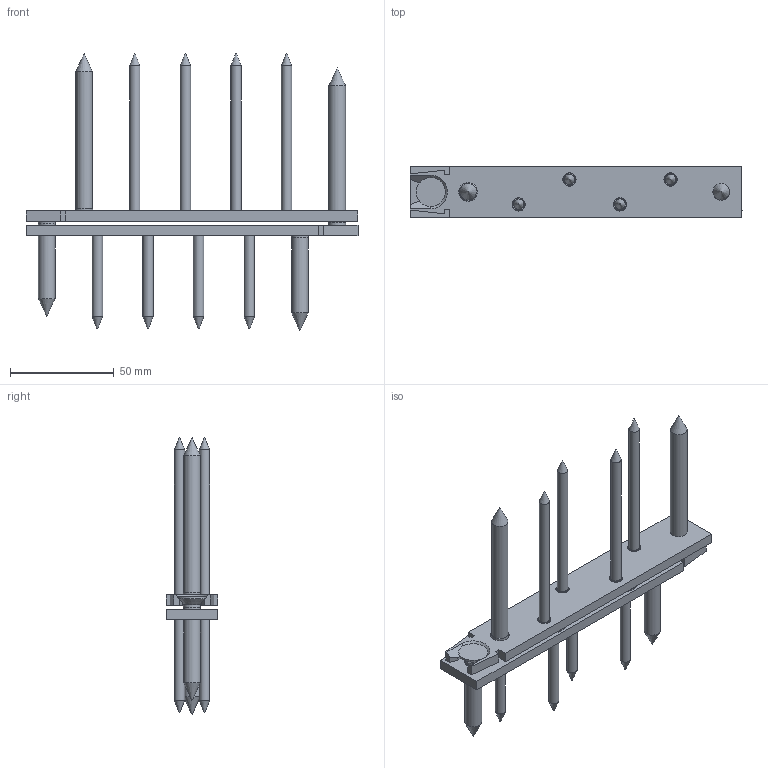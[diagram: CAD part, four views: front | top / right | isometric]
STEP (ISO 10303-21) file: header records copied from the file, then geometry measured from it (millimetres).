
FILE_DESCRIPTION(/* description */ ('Unknown'),/* implementation_level */ '2;1');
FILE_NAME(/* name */ 'RICON Edelstahl_160x25_EA',/* time_stamp */ '2022-02-09T08:26:46+01:00',/* author */ ('Unknown'),/* organization */ ('Unknown'),/* preprocessor_version */ 'ST-DEVELOPER v16.7',/* originating_system */ 'Solid Edge',/* authorisation */ 'Unknown');
FILE_SCHEMA (('AUTOMOTIVE_DESIGN {1 0 10303 214 3 1 1}'));
Length unit declared in the file: millimetre
Products named in the file (8): RICON Edelstahl_160x25_EA; RICON Edelstahl_160x25_HT; RICON_25x160_V8_2021-01-25; SK_Schraube_5x50; SK_Schraube_8x50; RICON Edelstahl_160x25_NT; SK_Schraube_5x80; SK_Schraube_8x80
Assembly tree (16 placements, depth 3):
  RICON Edelstahl_160x25_EA
    RICON Edelstahl_160x25_HT
      RICON_25x160_V8_2021-01-25
      SK_Schraube_5x50  x4
      SK_Schraube_8x50  x2
    RICON Edelstahl_160x25_NT
      RICON_25x160_V8_2021-01-25
      SK_Schraube_5x80  x4
      SK_Schraube_8x80  x2
Bounding box: 160 x 25 x 133.6 mm (x, y, z)
Volume: 56721.1 mm3; surface area: 35369.7 mm2
Topology: 14 solids, 14 shells, 178 faces, 360 edges, 226 vertices
Faces by surface type: plane 82, cylinder 60, cone 36
Full cylindrical faces by diameter (mm): 5 x8, 6 x8, 6.4 x8, 8 x6, 8.3 x4, 9 x2, 10 x4, 10.2 x4, 11 x8, 14 x4, 15 x2
Entity records: 2018 total; most frequent: DIRECTION 348, CARTESIAN_POINT 297, ORIENTED_EDGE 226, AXIS2_PLACEMENT_3D 145, FACE_BOUND 129, EDGE_LOOP 127, EDGE_CURVE 113, VERTEX_POINT 94
